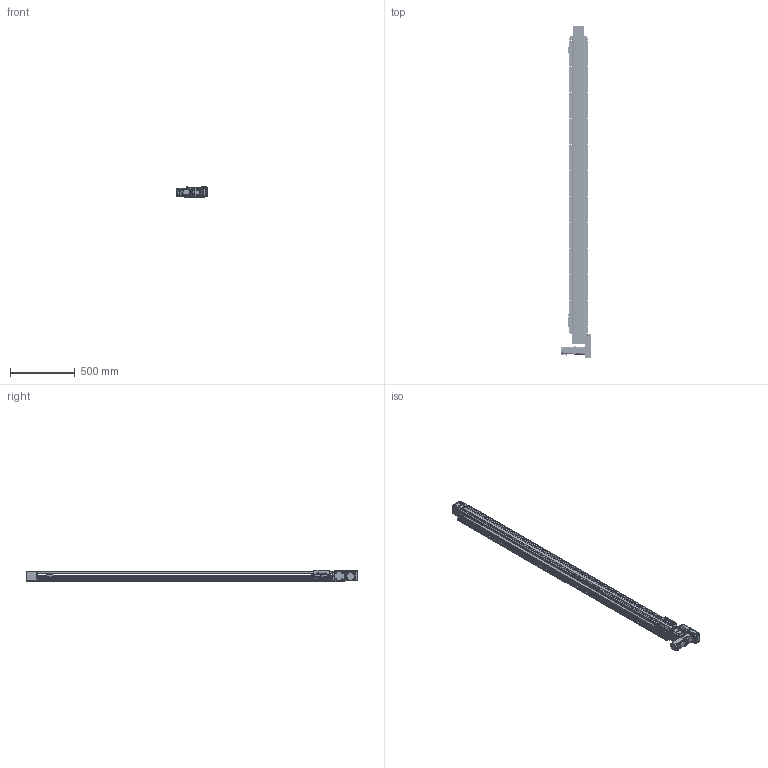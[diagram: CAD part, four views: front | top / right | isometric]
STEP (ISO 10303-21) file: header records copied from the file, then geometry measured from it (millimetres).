
FILE_DESCRIPTION(/* description */ (''),/* implementation_level */ '2;1');
FILE_NAME(/* name */ '\\192.168.0.160\disk1\HAN SHIN Master\B-설계부문\C-표준\B-2024년\BC02-표준도면\+로봇 개선표준도면\홈페이지 표준 도면\홈페이지 최종 작업 폴더\3D\HB\HB125-R4G-N-2100-L.stp',/* time_stamp */ '2025-01-14T14:58:12+09:00',/* author */ ('user'),/* organization */ (''),/* preprocessor_version */ 'ST-DEVELOPER v18.1',/* originating_system */ 'Autodesk Inventor 2022',/* authorisation */ '');
FILE_SCHEMA (('AUTOMOTIVE_DESIGN { 1 0 10303 214 3 1 1 }'));
Products named in the file (31): HSB125-R4G-N-0500-L; BASE; REAR COVER; HSB125 FORNT HOUSUNG (Connecting); HSB160 REAR SHAFT-2; REAR SHAFT--2; HSB125 REAR HOUSUNG; TENSION PLATE; HSB160 ARC COVER; UPCOVER; hsr_ftht_A-M6F_grease_nipple_joint; NIPPLE CAP(신규); 6003ZZ; HSB125 TABLE (TEST); HG90STOPPER - 17L; PGX62-H-1_3; hg-kr43_; HSB125 END COVER; HSB160 SHAFT-1; NSK_6205; HSB160 BEARING OVER; HR120 SENSOR DOG; SENSOR BRK(EE-SX674A); EE_SX674A; HSB125 R; HR120 LR BELT COVER; HR160 ACRYL COVER - 1; HR160 ACRYL COVER - 1_1; HR160 ACRYL COVER - 1_2; HR120 LR MOTOR PLATE (400W)-사출; MOTOR PLATE - 200W
Assembly tree (51 placements, depth 3):
  HSB125-R4G-N-0500-L
    BASE
    REAR COVER  x2
    HSB125 FORNT HOUSUNG (Connecting)
    HSB160 REAR SHAFT-2
    REAR SHAFT--2
    HSB125 REAR HOUSUNG
    TENSION PLATE  x2
    HSB160 ARC COVER  x4
    HG90STOPPER - 17L  x4
    UPCOVER
    NIPPLE CAP(신규)  x4
    hsr_ftht_A-M6F_grease_nipple_joint  x4
    6003ZZ  x2
    HSB125 TABLE (TEST)
    PGX62-H-1_3
    hg-kr43_
    HSB125 END COVER
    HSB160 SHAFT-1
    NSK_6205  x2
    HSB160 BEARING OVER
    SENSOR BRK(EE-SX674A)  x3
    EE_SX674A  x3
    HR120 SENSOR DOG
    HSB125 R
      HR120 LR BELT COVER
      HR160 ACRYL COVER - 1
      HR160 ACRYL COVER - 1_1
      HR160 ACRYL COVER - 1_2  x2
      HR120 LR MOTOR PLATE (400W)-사출
      MOTOR PLATE - 200W
Bounding box: 233.3 x 2554.5 x 85 mm (x, y, z)
Volume: 7528039.4 mm3; surface area: 2423451.4 mm2
Topology: 115 solids, 115 shells, 6813 faces, 19013 edges, 12518 vertices
Faces by surface type: plane 4931, cylinder 1369, cone 353, sphere 72, torus 61, bspline 27
Full cylindrical faces by diameter (mm): 2.459 x74, 3 x20, 3.242 x52, 3.3 x5, 3.4 x40, 3.5 x6, 4 x9, 4.134 x38, 4.2 x10, 4.5 x37, 4.917 x32, 5 x20, 5.5 x55, 5.6 x4, 5.8 x4, 5.9 x8, 6 x12, 6.5 x8, 6.647 x24, 7 x1, 7.5 x24, 8 x4, 8.5 x4, 9 x4, 9.2 x4, 9.5 x27, 12 x2, 14 x1, 14.2 x1, 15 x4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
Entity records: 156922 total; most frequent: CARTESIAN_POINT 31161, ORIENTED_EDGE 26062, DIRECTION 25121, EDGE_CURVE 13031, LINE 9629, VECTOR 9629, VERTEX_POINT 8663, AXIS2_PLACEMENT_3D 7746
